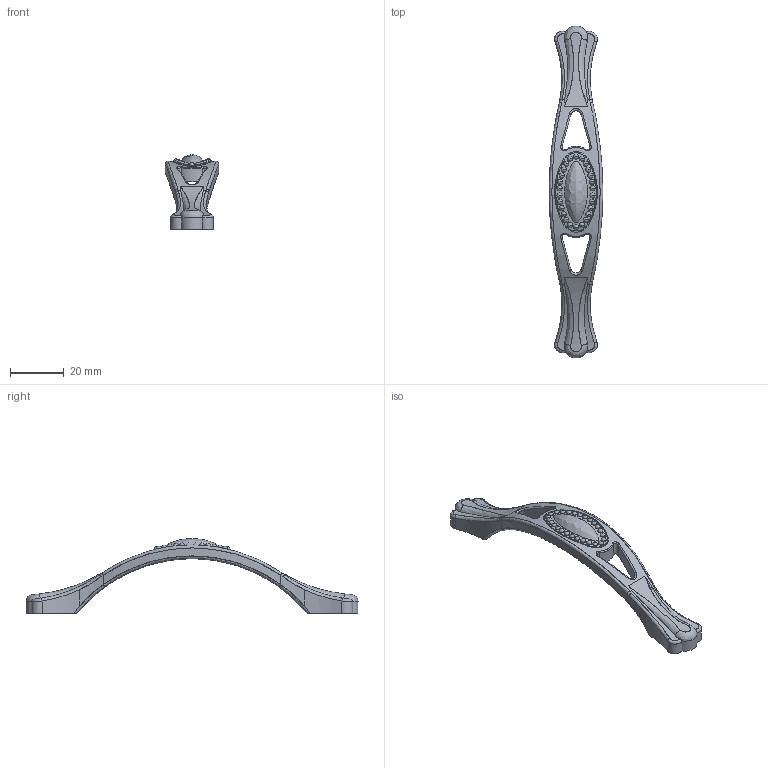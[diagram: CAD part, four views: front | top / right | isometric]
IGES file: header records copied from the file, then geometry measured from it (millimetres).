
Start section: C
Global section: file name: 0023 -124.igs; native system: By Siemens PLM Incorporated; preprocessor: XPlus GENERIC/IGES 16.0.42; author: Author; organization: Title; date: 20210331.080813; units: millimetre
Bounding box: 20 x 124 x 28 mm (x, y, z)
Surface area: 6388.1 mm2 (no closed solid volume)
Topology: 0 solids, 0 shells, 197 faces, 988 edges, 962 vertices
Faces by surface type: bspline 197
